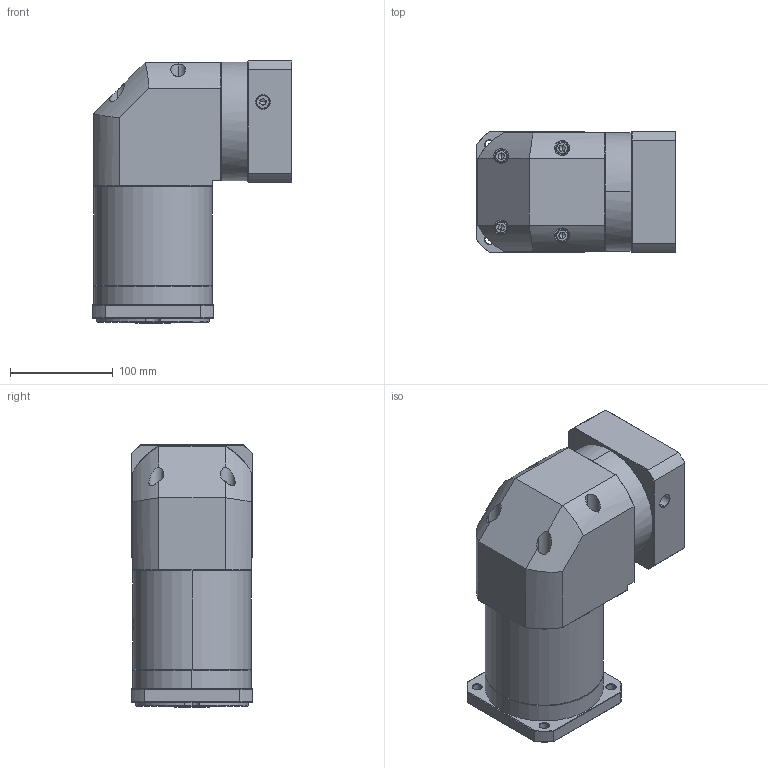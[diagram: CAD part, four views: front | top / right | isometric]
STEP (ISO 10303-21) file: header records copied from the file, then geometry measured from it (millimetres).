
FILE_DESCRIPTION (( 'STEP AP214' ), '1' );
FILE_NAME ('ZFR120A-K25-L3-P2-24-95-130-M8.step', '2023-08-27T08:18:21', ( '' ), ( '' ), 'SwSTEP 2.0', 'SolidWorks 2016', '' );
FILE_SCHEMA (( 'AUTOMOTIVE_DESIGN' ));
Length unit declared in the file: millimetre
Products named in the file (1): ZFR120A-K25-L3-P2-24-95-130-M8
Bounding box: 193.9 x 118 x 255 mm (x, y, z)
Volume: 3439565.2 mm3; surface area: 262341.3 mm2
Topology: 6 solids, 6 shells, 2209 faces, 5840 edges, 3736 vertices
Faces by surface type: plane 1054, bspline 415, cylinder 401, cone 331, torus 8
Entity records: 118782 total; most frequent: CARTESIAN_POINT 45062, ORIENTED_EDGE 11624, DIRECTION 8453, EDGE_CURVE 5812, VERTEX_POINT 3736, VECTOR 3107, LINE 3107, AXIS2_PLACEMENT_3D 2673
